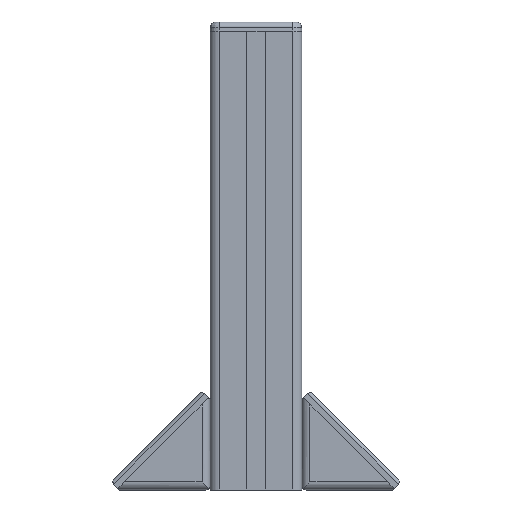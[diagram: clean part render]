
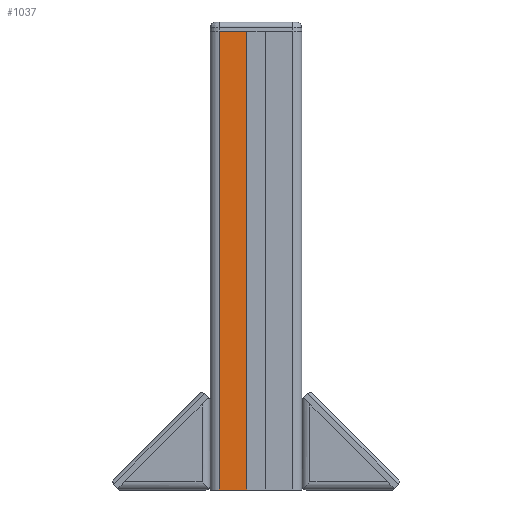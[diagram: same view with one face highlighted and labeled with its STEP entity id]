
A CAD part, left-side view. The second image highlights one B-rep face of the part: STEP entity #1037.
In plain terms, the highlighted planar face has unit normal (-1, 0, 0).
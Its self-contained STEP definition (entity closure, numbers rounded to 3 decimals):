
#935=PLANE('',#4432);
#1037=ADVANCED_FACE('',(#1178),#935,.F.);
#1178=FACE_OUTER_BOUND('',#1318,.T.);
#1318=EDGE_LOOP('',(#2018,#2019,#2020,#2021));
#2018=ORIENTED_EDGE('',*,*,#3573,.T.);
#2019=ORIENTED_EDGE('',*,*,#3462,.F.);
#2020=ORIENTED_EDGE('',*,*,#3574,.F.);
#2021=ORIENTED_EDGE('',*,*,#3570,.T.);
#2976=VERTEX_POINT('',#6043);
#2977=VERTEX_POINT('',#6045);
#3076=VERTEX_POINT('',#6279);
#3077=VERTEX_POINT('',#6281);
#3462=EDGE_CURVE('',#2976,#2977,#3953,.T.);
#3570=EDGE_CURVE('',#3077,#3076,#4017,.T.);
#3573=EDGE_CURVE('',#3076,#2977,#4019,.T.);
#3574=EDGE_CURVE('',#3077,#2976,#4020,.T.);
#3953=LINE('',#6044,#4168);
#4017=LINE('',#6280,#4232);
#4019=LINE('',#6285,#4234);
#4020=LINE('',#6286,#4235);
#4168=VECTOR('',#4663,1.);
#4232=VECTOR('',#4831,1.);
#4234=VECTOR('',#4837,1.);
#4235=VECTOR('',#4838,1.);
#4432=AXIS2_PLACEMENT_3D('',#6287,#4839,#4840);
#4663=DIRECTION('',(0.,0.,-1.));
#4831=DIRECTION('',(0.,0.,-1.));
#4837=DIRECTION('',(0.,-1.,0.));
#4838=DIRECTION('',(0.,-1.,0.));
#4839=DIRECTION('',(1.,0.,0.));
#4840=DIRECTION('',(0.,0.,-1.));
#6043=CARTESIAN_POINT('',(0.,24.,200.));
#6044=CARTESIAN_POINT('',(0.,24.,80.));
#6045=CARTESIAN_POINT('',(0.,24.,0.));
#6279=CARTESIAN_POINT('',(0.,36.,0.));
#6280=CARTESIAN_POINT('',(0.,36.,80.));
#6281=CARTESIAN_POINT('',(0.,36.,200.));
#6285=CARTESIAN_POINT('',(0.,36.,0.));
#6286=CARTESIAN_POINT('',(0.,36.,200.));
#6287=CARTESIAN_POINT('',(0.,36.,80.));
